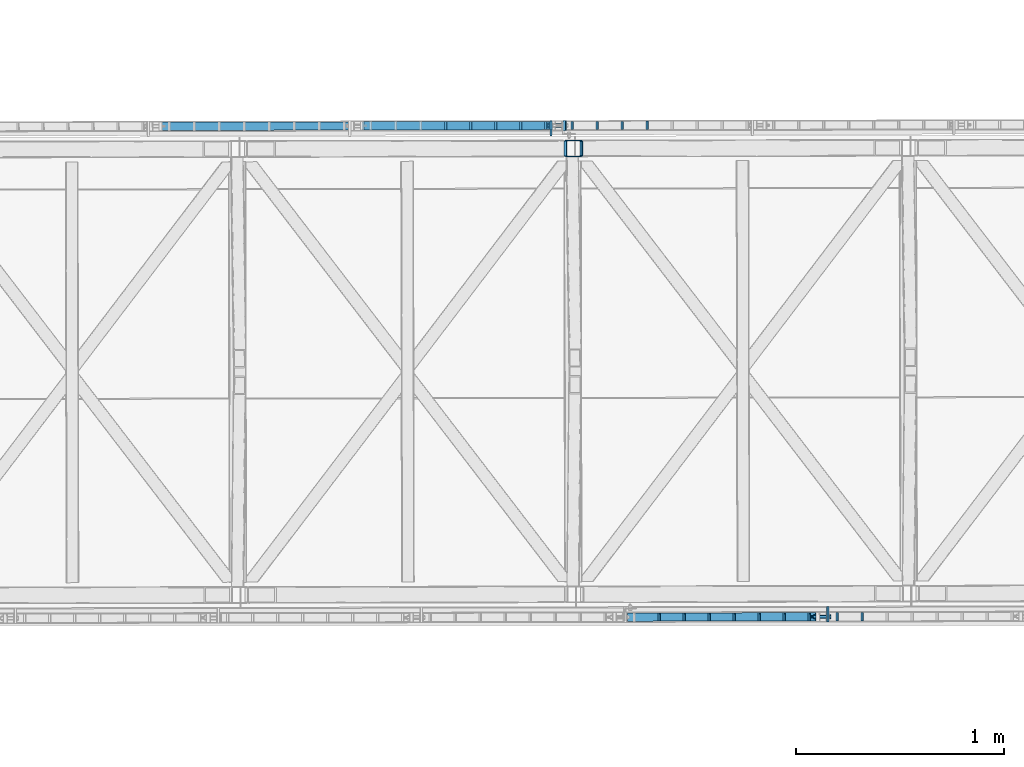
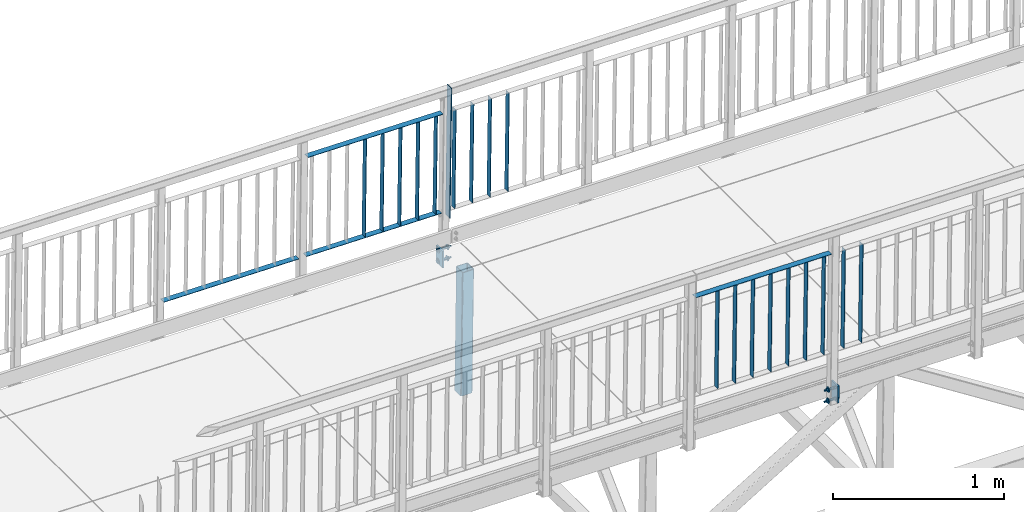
# One storey, part 117 of 169: 26 discrete accessories, 2 mechanical fasteners, 3 elements without a shape of their own.
"""IFC2X3 building model written with IfcOpenShell, lengths in millimetres."""

from ifc_helpers import new_model, si_unit, frame, origin_with_axes, origin_2d_with_axis, place, context, subcontext, project, spatial, polyline, rectangle, hollow_rectangle, circle, outline, extrude, boolean, clip, halfspace, source, transform, mapped, material, type_object, element, aggregate, save


model = new_model("IFC2X3")

# Units and contexts
model_context = context("Model", 3, precision=1e-05, world=origin_with_axes())
body_context = subcontext(model_context, "Body", "Model", "MODEL_VIEW")
ifc_project = project(units=[si_unit("LENGTHUNIT", "METRE", prefix="MILLI"), si_unit("AREAUNIT", "SQUARE_METRE"), si_unit("VOLUMEUNIT", "CUBIC_METRE"), si_unit("MASSUNIT", "GRAM", prefix="KILO"), si_unit("TIMEUNIT", "SECOND"), si_unit("PLANEANGLEUNIT", "RADIAN"), si_unit("SOLIDANGLEUNIT", "STERADIAN"), si_unit("THERMODYNAMICTEMPERATUREUNIT", "DEGREE_CELSIUS"), si_unit("LUMINOUSINTENSITYUNIT", "LUMEN")], contexts=[model_context])

# Site, building, storey
site_placement = place(None, origin_with_axes())
site = spatial("IfcSite", under=ifc_project, at=site_placement, Name="Undefined", CompositionType="ELEMENT")
building_placement = place(site_placement, origin_with_axes())
building = spatial("IfcBuilding", under=site, at=building_placement, Name="Undefined", CompositionType="ELEMENT")
storey_placement = place(building_placement, origin_with_axes())
storey = spatial("IfcBuildingStorey", under=building, at=storey_placement, Name="Undefined", CompositionType="ELEMENT", Elevation=0.0)

# Assembly, discrete accessories
assembly_1_placement = place(storey_placement, origin_with_axes())
assembly_1 = element("IfcElementAssembly", 1, at=assembly_1_placement, inside=storey, Name="Steel Assembly", AssemblyPlace="NOTDEFINED", PredefinedType="RIGID_FRAME")
ifc_material_1 = material(Name="STEEL/S235")
discrete_accessory_type_1 = type_object("IfcDiscreteAccessoryType", Name="BLACHA")
discrete_accessory_1_placement = place(assembly_1_placement, frame((14054.1267744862, 2331.22683431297, 13775.533311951), z_axis=(0.9999174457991, 0.00186469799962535, -0.0127131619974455), x_axis=(-0.0018648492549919, 0.999998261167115, -4.2996762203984e-08)))
discrete_accessory_1 = element("IfcDiscreteAccessory", 2, at=discrete_accessory_1_placement, type_object=discrete_accessory_type_1, material=ifc_material_1, Name="BLACHA", ObjectType="BL10*120", context=body_context, shape_type="SweptSolid", body=[
    extrude(outline(polyline([(-5.35749222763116e-11, -59.9999999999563), (5.3567816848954e-11, 59.9999999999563), (75.0000002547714, 59.9999999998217), (75.0000002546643, -60.0000000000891), (-5.35749222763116e-11, -59.9999999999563)])), frame((-1.81898926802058e-12, -1.18000176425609e-16, -5.00000000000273), z_axis=(0.0, 0.0, 1.0), x_axis=(1.0, 0.0, 0.0)), (0.0, 0.0, 1.0), 10.0),
])
discrete_accessory_2_placement = place(assembly_1_placement, frame((15382.0733835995, 73.699330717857, 13758.7031997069), z_axis=(-0.999917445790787, -0.00186469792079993, 0.0127131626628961), x_axis=(0.00186484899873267, -0.999998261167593, 4.28757666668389e-08)))
discrete_accessory_2 = element("IfcDiscreteAccessory", 3, at=discrete_accessory_2_placement, type_object=discrete_accessory_type_1, material=ifc_material_1, Name="BLACHA", ObjectType="BL10*120", context=body_context, shape_type="SweptSolid", body=[
    extrude(outline(polyline([(75.0000002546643, -60.0000000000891), (-5.35749222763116e-11, -59.9999999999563), (5.3567816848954e-11, 59.9999999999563), (75.0000002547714, 59.9999999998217), (75.0000002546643, -60.0000000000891)])), frame((-1.81898926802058e-12, -1.18000176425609e-16, -5.00000000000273), z_axis=(0.0, 0.0, 1.0), x_axis=(1.0, 0.0, 0.0)), (0.0, 0.0, 1.0), 10.0),
])

# Assembly, discrete accessory
assembly_2_placement = place(storey_placement, origin_with_axes())
assembly_2 = element("IfcElementAssembly", 4, at=assembly_2_placement, inside=storey, Name="Steel Assembly", AssemblyPlace="NOTDEFINED", PredefinedType="RIGID_FRAME")
discrete_accessory_3_placement = place(assembly_2_placement, frame((14114.9655488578, 2406.34043426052, 14033.7789463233), z_axis=(-0.999917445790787, -0.00186469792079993, 0.0127131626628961), x_axis=(0.00186484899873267, -0.999998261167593, 4.28757666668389e-08)))
discrete_accessory_3 = element("IfcDiscreteAccessory", 5, at=discrete_accessory_3_placement, type_object=discrete_accessory_type_1, material=ifc_material_1, Name="BLACHA", ObjectType="BL5*50", context=body_context, shape_type="SweptSolid", body=[
    extrude(outline(polyline([(0.0, 0.0), (50.0000000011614, 3.27418092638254e-11), (50.0000000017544, 926.000000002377), (3.10365066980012e-08, 926.000000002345), (0.0, 0.0)])), frame((6.80888809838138e-19, -2.87858853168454e-21, -2.49999999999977), z_axis=(0.0, 0.0, 1.0), x_axis=(1.0, 0.0, 0.0)), (0.0, 0.0, 1.0), 5.0),
])

# Discrete accessory
ifc_material_2 = material(Name="STEEL/S355")
discrete_accessory_type_2 = type_object("IfcDiscreteAccessoryType", Name="BEAM")
discrete_accessory_4_placement = place(assembly_1_placement, frame((14155.4606473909, 2271.41576976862, 12774.1654243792), z_axis=(-0.999917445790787, -0.00186469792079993, 0.0127131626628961), x_axis=(0.012713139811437, 2.3750999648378e-05, 0.999919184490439)))
discrete_accessory_4 = element("IfcDiscreteAccessory", 6, at=discrete_accessory_4_placement, type_object=discrete_accessory_type_2, material=ifc_material_2, Name="BEAM", ObjectType="K80/4", context=body_context, shape_type="Clipping", body=[
    clip(clip(extrude(hollow_rectangle(XDim=80.0, YDim=80.0, WallThickness=4.0, InnerFilletRadius=4.0, OuterFilletRadius=8.0, at=origin_2d_with_axis()), frame((940.000112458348, 4.54747487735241e-13, 0.0), z_axis=(-1.0, -3.46944695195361e-18, -1.38777878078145e-17), x_axis=(1.73472347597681e-18, -1.0, 0.0)), (0.0, 0.0, 1.0), 880.0), halfspace(frame((940.000112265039, -6.72889655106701e-09, 999.999999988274), z_axis=(-1.0, -3.46944695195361e-18, -1.38777878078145e-17), x_axis=(1.73472347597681e-18, -1.0, 0.0)), True)), halfspace(frame((60.0001122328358, 8.14088707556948e-09, 1000.00000001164), z_axis=(1.0, 0.0, 0.0), x_axis=(0.0, 1.0, 0.0)), True)),
])

aggregate(assembly_1, [discrete_accessory_1, discrete_accessory_2, discrete_accessory_4])

# Assembly, discrete accessories
assembly_3_placement = place(storey_placement, origin_with_axes())
assembly_3 = element("IfcElementAssembly", 7, at=assembly_3_placement, inside=storey, Name="Steel Assembly", AssemblyPlace="NOTDEFINED", PredefinedType="RIGID_FRAME")
discrete_accessory_type_3 = type_object("IfcDiscreteAccessoryType", Name="PORĘCZ")
discrete_accessory_5_placement = place(assembly_3_placement, frame((15433.9604357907, 23.7960549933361, 14918.1384379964), z_axis=(-0.0018648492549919, 0.999998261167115, -4.2996762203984e-08), x_axis=(-0.012713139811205, -2.37511238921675e-05, -0.999919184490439)))
discrete_accessory_5 = element("IfcDiscreteAccessory", 8, at=discrete_accessory_5_placement, type_object=discrete_accessory_type_3, material=ifc_material_1, Name="PORĘCZ", ObjectType="BL40*3", context=body_context, shape_type="Clipping", body=[
    clip(clip(extrude(rectangle(XDim=3.0, YDim=40.0, at=origin_2d_with_axis()), frame((848.500000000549, 1.47191286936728e-15, -8.89750592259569e-16), z_axis=(-1.0, -3.46944695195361e-18, -1.38777878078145e-17), x_axis=(1.73472347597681e-18, -1.0, 0.0)), (0.0, 0.0, 1.0), 702.0), halfspace(frame((848.499999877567, 4.522007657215e-09, 1000.00000000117), z_axis=(-1.0, -3.46944695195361e-18, -1.38777878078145e-17), x_axis=(1.73472347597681e-18, -1.0, 0.0)), True)), halfspace(frame((146.499999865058, 4.97311702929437e-09, 1000.00000000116), z_axis=(1.0, 0.0, 0.0), x_axis=(0.0, 1.0, 0.0)), True)),
])
discrete_accessory_6_placement = place(assembly_3_placement, frame((15553.950529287, 24.0198187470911, 14916.6128585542), z_axis=(-0.0018648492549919, 0.999998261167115, -4.2996762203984e-08), x_axis=(-0.012713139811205, -2.37511238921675e-05, -0.999919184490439)))
discrete_accessory_6 = element("IfcDiscreteAccessory", 9, at=discrete_accessory_6_placement, type_object=discrete_accessory_type_3, material=ifc_material_1, Name="PORĘCZ", ObjectType="BL40*3", context=body_context, shape_type="Clipping", body=[
    clip(clip(extrude(rectangle(XDim=3.0, YDim=40.0, at=origin_2d_with_axis()), frame((848.500000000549, 1.47191286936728e-15, -8.89750592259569e-16), z_axis=(-1.0, -3.46944695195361e-18, -1.38777878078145e-17), x_axis=(1.73472347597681e-18, -1.0, 0.0)), (0.0, 0.0, 1.0), 702.0), halfspace(frame((848.499999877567, 4.522007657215e-09, 1000.00000000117), z_axis=(-1.0, -3.46944695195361e-18, -1.38777878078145e-17), x_axis=(1.73472347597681e-18, -1.0, 0.0)), True)), halfspace(frame((146.499999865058, 4.97311702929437e-09, 1000.00000000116), z_axis=(1.0, 0.0, 0.0), x_axis=(0.0, 1.0, 0.0)), True)),
])
discrete_accessory_7_placement = place(assembly_3_placement, frame((15415.0688120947, 23.7608186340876, 14773.3669108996), z_axis=(-0.012713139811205, -2.37511238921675e-05, -0.999919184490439), x_axis=(-0.999917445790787, -0.00186469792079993, 0.0127131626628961)))
discrete_accessory_7 = element("IfcDiscreteAccessory", 10, at=discrete_accessory_7_placement, type_object=discrete_accessory_type_3, material=ifc_material_1, Name="PORĘCZ", ObjectType="BL40*3", context=body_context, shape_type="CSG", body=[
    boolean("DIFFERENCE", boolean("DIFFERENCE", boolean("DIFFERENCE", extrude(outline(polyline([(995.000000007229, -19.9999999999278), (75.0000000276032, -19.9999999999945), (75.0000000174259, 20.0000000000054), (995.000000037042, 20.0000000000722), (995.000000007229, -19.9999999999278)])), frame((1.81898940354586e-12, -1.77635442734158e-15, -1.50000000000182), z_axis=(0.0, 0.0, 1.0), x_axis=(1.0, 0.0, 0.0)), (0.0, 0.0, 1.0), 3.0), extrude(rectangle(XDim=51.0, YDim=51.0, at=origin_2d_with_axis()), frame((-5.94487782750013e-08, -4.65977194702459e-09, -139.999999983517), z_axis=(0.0, 0.0, 1.0), x_axis=(1.0, 0.0, 0.0)), (0.0, 0.0, 1.0), 280.0)), halfspace(frame((74.999999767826, 1000.00000000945, -5.07134245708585e-09), z_axis=(1.0, 0.0, 0.0), x_axis=(-2.54700353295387e-10, 0.0, -1.0)), True)), halfspace(frame((995.000000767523, 1000.00000000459, 2.61934474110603e-10), z_axis=(-1.0, -3.46944695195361e-18, -1.38777878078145e-17), x_axis=(0.0, 0.0, 1.0)), True)),
])
discrete_accessory_8_placement = place(assembly_3_placement, frame((15299.3722954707, 23.5450680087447, 14919.8496200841), z_axis=(-0.0018648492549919, 0.999998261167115, -4.2996762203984e-08), x_axis=(-0.012713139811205, -2.37511238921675e-05, -0.999919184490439)))
discrete_accessory_8 = element("IfcDiscreteAccessory", 11, at=discrete_accessory_8_placement, type_object=discrete_accessory_type_3, material=ifc_material_1, Name="PORĘCZ", ObjectType="BL40*3", context=body_context, shape_type="Clipping", body=[
    clip(clip(extrude(rectangle(XDim=3.0, YDim=40.0, at=origin_2d_with_axis()), frame((848.500000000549, 1.47191286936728e-15, -8.89750592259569e-16), z_axis=(-1.0, -3.46944695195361e-18, -1.38777878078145e-17), x_axis=(1.73472347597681e-18, -1.0, 0.0)), (0.0, 0.0, 1.0), 702.0), halfspace(frame((848.499999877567, 4.522007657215e-09, 1000.00000000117), z_axis=(-1.0, -3.46944695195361e-18, -1.38777878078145e-17), x_axis=(1.73472347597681e-18, -1.0, 0.0)), True)), halfspace(frame((146.499999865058, 4.97311702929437e-09, 1000.00000000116), z_axis=(1.0, 0.0, 0.0), x_axis=(0.0, 1.0, 0.0)), True)),
])
discrete_accessory_9_placement = place(assembly_3_placement, frame((15179.3822019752, 23.3213042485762, 14921.375199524), z_axis=(-0.0018648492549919, 0.999998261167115, -4.2996762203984e-08), x_axis=(-0.012713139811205, -2.37511238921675e-05, -0.999919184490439)))
discrete_accessory_9 = element("IfcDiscreteAccessory", 12, at=discrete_accessory_9_placement, type_object=discrete_accessory_type_3, material=ifc_material_1, Name="PORĘCZ", ObjectType="BL40*3", context=body_context, shape_type="Clipping", body=[
    clip(clip(extrude(rectangle(XDim=3.0, YDim=40.0, at=origin_2d_with_axis()), frame((848.500000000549, 1.47191286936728e-15, -8.89750592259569e-16), z_axis=(-1.0, -3.46944695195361e-18, -1.38777878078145e-17), x_axis=(1.73472347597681e-18, -1.0, 0.0)), (0.0, 0.0, 1.0), 702.0), halfspace(frame((848.499999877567, 4.522007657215e-09, 1000.00000000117), z_axis=(-1.0, -3.46944695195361e-18, -1.38777878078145e-17), x_axis=(1.73472347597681e-18, -1.0, 0.0)), True)), halfspace(frame((146.499999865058, 4.97311702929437e-09, 1000.00000000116), z_axis=(1.0, 0.0, 0.0), x_axis=(0.0, 1.0, 0.0)), True)),
])
discrete_accessory_10_placement = place(assembly_3_placement, frame((15059.3921084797, 23.0975404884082, 14922.9007789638), z_axis=(-0.0018648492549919, 0.999998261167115, -4.2996762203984e-08), x_axis=(-0.012713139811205, -2.37511238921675e-05, -0.999919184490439)))
discrete_accessory_10 = element("IfcDiscreteAccessory", 13, at=discrete_accessory_10_placement, type_object=discrete_accessory_type_3, material=ifc_material_1, Name="PORĘCZ", ObjectType="BL40*3", context=body_context, shape_type="Clipping", body=[
    clip(clip(extrude(rectangle(XDim=3.0, YDim=40.0, at=origin_2d_with_axis()), frame((848.500000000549, 1.47191286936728e-15, -8.89750592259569e-16), z_axis=(-1.0, -3.46944695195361e-18, -1.38777878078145e-17), x_axis=(1.73472347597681e-18, -1.0, 0.0)), (0.0, 0.0, 1.0), 702.0), halfspace(frame((848.499999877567, 4.522007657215e-09, 1000.00000000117), z_axis=(-1.0, -3.46944695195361e-18, -1.38777878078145e-17), x_axis=(1.73472347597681e-18, -1.0, 0.0)), True)), halfspace(frame((146.499999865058, 4.97311702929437e-09, 1000.00000000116), z_axis=(1.0, 0.0, 0.0), x_axis=(0.0, 1.0, 0.0)), True)),
])
discrete_accessory_11_placement = place(assembly_3_placement, frame((14939.4020149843, 22.87377672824, 14924.4263584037), z_axis=(-0.0018648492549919, 0.999998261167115, -4.2996762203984e-08), x_axis=(-0.012713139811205, -2.37511238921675e-05, -0.999919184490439)))
discrete_accessory_11 = element("IfcDiscreteAccessory", 14, at=discrete_accessory_11_placement, type_object=discrete_accessory_type_3, material=ifc_material_1, Name="PORĘCZ", ObjectType="BL40*3", context=body_context, shape_type="Clipping", body=[
    clip(clip(extrude(rectangle(XDim=3.0, YDim=40.0, at=origin_2d_with_axis()), frame((848.500000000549, 1.47191286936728e-15, -8.89750592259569e-16), z_axis=(-1.0, -3.46944695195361e-18, -1.38777878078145e-17), x_axis=(1.73472347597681e-18, -1.0, 0.0)), (0.0, 0.0, 1.0), 702.0), halfspace(frame((848.499999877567, 4.522007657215e-09, 1000.00000000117), z_axis=(-1.0, -3.46944695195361e-18, -1.38777878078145e-17), x_axis=(1.73472347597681e-18, -1.0, 0.0)), True)), halfspace(frame((146.499999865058, 4.97311702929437e-09, 1000.00000000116), z_axis=(1.0, 0.0, 0.0), x_axis=(0.0, 1.0, 0.0)), True)),
])
discrete_accessory_12_placement = place(assembly_3_placement, frame((14819.4119214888, 22.6500129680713, 14925.9519378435), z_axis=(-0.0018648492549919, 0.999998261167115, -4.2996762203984e-08), x_axis=(-0.012713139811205, -2.37511238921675e-05, -0.999919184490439)))
discrete_accessory_12 = element("IfcDiscreteAccessory", 15, at=discrete_accessory_12_placement, type_object=discrete_accessory_type_3, material=ifc_material_1, Name="PORĘCZ", ObjectType="BL40*3", context=body_context, shape_type="Clipping", body=[
    clip(clip(extrude(rectangle(XDim=3.0, YDim=40.0, at=origin_2d_with_axis()), frame((848.500000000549, 1.47191286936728e-15, -8.89750592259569e-16), z_axis=(-1.0, -3.46944695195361e-18, -1.38777878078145e-17), x_axis=(1.73472347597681e-18, -1.0, 0.0)), (0.0, 0.0, 1.0), 702.0), halfspace(frame((848.499999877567, 4.522007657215e-09, 1000.00000000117), z_axis=(-1.0, -3.46944695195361e-18, -1.38777878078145e-17), x_axis=(1.73472347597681e-18, -1.0, 0.0)), True)), halfspace(frame((146.499999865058, 4.97311702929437e-09, 1000.00000000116), z_axis=(1.0, 0.0, 0.0), x_axis=(0.0, 1.0, 0.0)), True)),
])
discrete_accessory_13_placement = place(assembly_3_placement, frame((14699.4218279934, 22.4262492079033, 14927.4775172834), z_axis=(-0.0018648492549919, 0.999998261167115, -4.2996762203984e-08), x_axis=(-0.012713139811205, -2.37511238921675e-05, -0.999919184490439)))
discrete_accessory_13 = element("IfcDiscreteAccessory", 16, at=discrete_accessory_13_placement, type_object=discrete_accessory_type_3, material=ifc_material_1, Name="PORĘCZ", ObjectType="BL40*3", context=body_context, shape_type="Clipping", body=[
    clip(clip(extrude(rectangle(XDim=3.0, YDim=40.0, at=origin_2d_with_axis()), frame((848.500000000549, 1.47191286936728e-15, -8.89750592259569e-16), z_axis=(-1.0, -3.46944695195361e-18, -1.38777878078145e-17), x_axis=(1.73472347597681e-18, -1.0, 0.0)), (0.0, 0.0, 1.0), 702.0), halfspace(frame((848.499999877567, 4.522007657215e-09, 1000.00000000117), z_axis=(-1.0, -3.46944695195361e-18, -1.38777878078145e-17), x_axis=(1.73472347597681e-18, -1.0, 0.0)), True)), halfspace(frame((146.499999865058, 4.97311702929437e-09, 1000.00000000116), z_axis=(1.0, 0.0, 0.0), x_axis=(0.0, 1.0, 0.0)), True)),
])
discrete_accessory_14_placement = place(assembly_3_placement, frame((14579.4317344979, 22.2024854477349, 14929.0030967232), z_axis=(-0.0018648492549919, 0.999998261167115, -4.2996762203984e-08), x_axis=(-0.012713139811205, -2.37511238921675e-05, -0.999919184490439)))
discrete_accessory_14 = element("IfcDiscreteAccessory", 17, at=discrete_accessory_14_placement, type_object=discrete_accessory_type_3, material=ifc_material_1, Name="PORĘCZ", ObjectType="BL40*3", context=body_context, shape_type="Clipping", body=[
    clip(clip(extrude(rectangle(XDim=3.0, YDim=40.0, at=origin_2d_with_axis()), frame((848.500000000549, 1.47191286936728e-15, -8.89750592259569e-16), z_axis=(-1.0, -3.46944695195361e-18, -1.38777878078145e-17), x_axis=(1.73472347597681e-18, -1.0, 0.0)), (0.0, 0.0, 1.0), 702.0), halfspace(frame((848.499999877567, 4.522007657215e-09, 1000.00000000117), z_axis=(-1.0, -3.46944695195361e-18, -1.38777878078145e-17), x_axis=(1.73472347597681e-18, -1.0, 0.0)), True)), halfspace(frame((146.499999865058, 4.97311702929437e-09, 1000.00000000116), z_axis=(1.0, 0.0, 0.0), x_axis=(0.0, 1.0, 0.0)), True)),
])

# Discrete accessory
discrete_accessory_15_placement = place(assembly_2_placement, frame((13130.3202386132, 2379.50420493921, 14802.3596300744), z_axis=(-0.012713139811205, -2.37511238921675e-05, -0.999919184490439), x_axis=(0.9999174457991, 0.00186469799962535, -0.0127131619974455)))
discrete_accessory_15 = element("IfcDiscreteAccessory", 18, at=discrete_accessory_15_placement, type_object=discrete_accessory_type_3, material=ifc_material_1, Name="PORĘCZ", ObjectType="BL40*3", context=body_context, shape_type="CSG", body=[
    boolean("DIFFERENCE", boolean("DIFFERENCE", extrude(outline(polyline([(25.4999999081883, 20.0000000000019), (941.194458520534, 20.0000000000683), (941.194458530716, -19.9999999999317), (25.499999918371, -19.9999999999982), (25.4999999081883, 20.0000000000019)])), frame((1.81898940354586e-12, -1.77635442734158e-15, -1.50000000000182), z_axis=(0.0, 0.0, 1.0), x_axis=(1.0, 0.0, 0.0)), (0.0, 0.0, 1.0), 3.0), extrude(rectangle(XDim=51.0, YDim=51.0, at=origin_2d_with_axis()), frame((-5.94487782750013e-08, -4.65977194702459e-09, -139.999999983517), z_axis=(0.0, 0.0, 1.0), x_axis=(1.0, 0.0, 0.0)), (0.0, 0.0, 1.0), 280.0)), extrude(rectangle(XDim=51.0, YDim=51.0, at=origin_2d_with_axis()), frame((966.694458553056, -6.96000839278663e-09, -139.999999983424), z_axis=(0.0, 0.0, 1.0), x_axis=(1.0, 0.0, 0.0)), (0.0, 0.0, 1.0), 280.0)),
])

discrete_accessory_16_placement = place(assembly_2_placement, frame((13555.4759239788, 2380.29706358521, 14941.9658299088), z_axis=(0.00186484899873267, -0.999998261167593, 4.28757666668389e-08), x_axis=(-0.012713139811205, -2.37511238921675e-05, -0.999919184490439)))
discrete_accessory_16 = element("IfcDiscreteAccessory", 19, at=discrete_accessory_16_placement, type_object=discrete_accessory_type_3, material=ifc_material_1, Name="PORĘCZ", ObjectType="BL40*3", context=body_context, shape_type="Clipping", body=[
    clip(clip(extrude(rectangle(XDim=3.0, YDim=40.0, at=origin_2d_with_axis()), frame((848.500000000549, 1.47191286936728e-15, -8.89750592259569e-16), z_axis=(-1.0, -3.46944695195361e-18, -1.38777878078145e-17), x_axis=(1.73472347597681e-18, -1.0, 0.0)), (0.0, 0.0, 1.0), 702.0), halfspace(frame((848.499999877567, 4.522007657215e-09, 1000.00000000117), z_axis=(-1.0, -3.46944695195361e-18, -1.38777878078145e-17), x_axis=(1.73472347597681e-18, -1.0, 0.0)), True)), halfspace(frame((146.499999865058, 4.97311702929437e-09, 1000.00000000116), z_axis=(1.0, 0.0, 0.0), x_axis=(0.0, 1.0, 0.0)), True)),
])

discrete_accessory_17_placement = place(assembly_2_placement, frame((13675.4660174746, 2380.52082734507, 14940.4402504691), z_axis=(0.00186484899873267, -0.999998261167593, 4.28757666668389e-08), x_axis=(-0.012713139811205, -2.37511238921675e-05, -0.999919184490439)))
discrete_accessory_17 = element("IfcDiscreteAccessory", 20, at=discrete_accessory_17_placement, type_object=discrete_accessory_type_3, material=ifc_material_1, Name="PORĘCZ", ObjectType="BL40*3", context=body_context, shape_type="Clipping", body=[
    clip(clip(extrude(rectangle(XDim=3.0, YDim=40.0, at=origin_2d_with_axis()), frame((848.500000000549, 1.47191286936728e-15, -8.89750592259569e-16), z_axis=(-1.0, -3.46944695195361e-18, -1.38777878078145e-17), x_axis=(1.73472347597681e-18, -1.0, 0.0)), (0.0, 0.0, 1.0), 702.0), halfspace(frame((848.499999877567, 4.522007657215e-09, 1000.00000000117), z_axis=(-1.0, -3.46944695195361e-18, -1.38777878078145e-17), x_axis=(1.73472347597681e-18, -1.0, 0.0)), True)), halfspace(frame((146.499999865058, 4.97311702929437e-09, 1000.00000000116), z_axis=(1.0, 0.0, 0.0), x_axis=(0.0, 1.0, 0.0)), True)),
])

discrete_accessory_18_placement = place(assembly_2_placement, frame((13795.4561109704, 2380.74459110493, 14938.9146710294), z_axis=(0.00186484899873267, -0.999998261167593, 4.28757666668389e-08), x_axis=(-0.012713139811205, -2.37511238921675e-05, -0.999919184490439)))
discrete_accessory_18 = element("IfcDiscreteAccessory", 21, at=discrete_accessory_18_placement, type_object=discrete_accessory_type_3, material=ifc_material_1, Name="PORĘCZ", ObjectType="BL40*3", context=body_context, shape_type="Clipping", body=[
    clip(clip(extrude(rectangle(XDim=3.0, YDim=40.0, at=origin_2d_with_axis()), frame((848.500000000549, 1.47191286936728e-15, -8.89750592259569e-16), z_axis=(-1.0, -3.46944695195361e-18, -1.38777878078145e-17), x_axis=(1.73472347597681e-18, -1.0, 0.0)), (0.0, 0.0, 1.0), 702.0), halfspace(frame((848.499999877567, 4.522007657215e-09, 1000.00000000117), z_axis=(-1.0, -3.46944695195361e-18, -1.38777878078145e-17), x_axis=(1.73472347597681e-18, -1.0, 0.0)), True)), halfspace(frame((146.499999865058, 4.97311702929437e-09, 1000.00000000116), z_axis=(1.0, 0.0, 0.0), x_axis=(0.0, 1.0, 0.0)), True)),
])

discrete_accessory_19_placement = place(assembly_2_placement, frame((13915.4462044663, 2380.9683548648, 14937.3890915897), z_axis=(0.00186484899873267, -0.999998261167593, 4.28757666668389e-08), x_axis=(-0.012713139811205, -2.37511238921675e-05, -0.999919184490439)))
discrete_accessory_19 = element("IfcDiscreteAccessory", 22, at=discrete_accessory_19_placement, type_object=discrete_accessory_type_3, material=ifc_material_1, Name="PORĘCZ", ObjectType="BL40*3", context=body_context, shape_type="Clipping", body=[
    clip(clip(extrude(rectangle(XDim=3.0, YDim=40.0, at=origin_2d_with_axis()), frame((848.500000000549, 1.47191286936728e-15, -8.89750592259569e-16), z_axis=(-1.0, -3.46944695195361e-18, -1.38777878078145e-17), x_axis=(1.73472347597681e-18, -1.0, 0.0)), (0.0, 0.0, 1.0), 702.0), halfspace(frame((848.499999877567, 4.522007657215e-09, 1000.00000000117), z_axis=(-1.0, -3.46944695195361e-18, -1.38777878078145e-17), x_axis=(1.73472347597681e-18, -1.0, 0.0)), True)), halfspace(frame((146.499999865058, 4.97311702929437e-09, 1000.00000000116), z_axis=(1.0, 0.0, 0.0), x_axis=(0.0, 1.0, 0.0)), True)),
])

discrete_accessory_20_placement = place(assembly_2_placement, frame((14035.4362979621, 2381.19211862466, 14935.86351215), z_axis=(0.00186484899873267, -0.999998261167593, 4.28757666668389e-08), x_axis=(-0.012713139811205, -2.37511238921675e-05, -0.999919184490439)))
discrete_accessory_20 = element("IfcDiscreteAccessory", 23, at=discrete_accessory_20_placement, type_object=discrete_accessory_type_3, material=ifc_material_1, Name="PORĘCZ", ObjectType="BL40*3", context=body_context, shape_type="Clipping", body=[
    clip(clip(extrude(rectangle(XDim=3.0, YDim=40.0, at=origin_2d_with_axis()), frame((848.500000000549, 1.47191286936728e-15, -8.89750592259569e-16), z_axis=(-1.0, -3.46944695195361e-18, -1.38777878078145e-17), x_axis=(1.73472347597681e-18, -1.0, 0.0)), (0.0, 0.0, 1.0), 702.0), halfspace(frame((848.499999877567, 4.522007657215e-09, 1000.00000000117), z_axis=(-1.0, -3.46944695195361e-18, -1.38777878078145e-17), x_axis=(1.73472347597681e-18, -1.0, 0.0)), True)), halfspace(frame((146.499999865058, 4.97311702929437e-09, 1000.00000000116), z_axis=(1.0, 0.0, 0.0), x_axis=(0.0, 1.0, 0.0)), True)),
])

discrete_accessory_21_placement = place(assembly_2_placement, frame((14162.1202974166, 2381.4283655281, 14934.2528249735), z_axis=(0.00186484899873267, -0.999998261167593, 4.28757666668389e-08), x_axis=(-0.012713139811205, -2.37511238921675e-05, -0.999919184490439)))
discrete_accessory_21 = element("IfcDiscreteAccessory", 24, at=discrete_accessory_21_placement, type_object=discrete_accessory_type_3, material=ifc_material_1, Name="PORĘCZ", ObjectType="BL40*3", context=body_context, shape_type="Clipping", body=[
    clip(clip(extrude(rectangle(XDim=3.0, YDim=40.0, at=origin_2d_with_axis()), frame((848.500000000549, 1.47191286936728e-15, -8.89750592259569e-16), z_axis=(-1.0, -3.46944695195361e-18, -1.38777878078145e-17), x_axis=(1.73472347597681e-18, -1.0, 0.0)), (0.0, 0.0, 1.0), 702.0), halfspace(frame((848.499999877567, 4.522007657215e-09, 1000.00000000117), z_axis=(-1.0, -3.46944695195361e-18, -1.38777878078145e-17), x_axis=(1.73472347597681e-18, -1.0, 0.0)), True)), halfspace(frame((146.499999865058, 4.97311702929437e-09, 1000.00000000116), z_axis=(1.0, 0.0, 0.0), x_axis=(0.0, 1.0, 0.0)), True)),
])

discrete_accessory_22_placement = place(assembly_2_placement, frame((14282.1103909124, 2381.65212928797, 14932.7272455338), z_axis=(0.00186484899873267, -0.999998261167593, 4.28757666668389e-08), x_axis=(-0.012713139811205, -2.37511238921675e-05, -0.999919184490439)))
discrete_accessory_22 = element("IfcDiscreteAccessory", 25, at=discrete_accessory_22_placement, type_object=discrete_accessory_type_3, material=ifc_material_1, Name="PORĘCZ", ObjectType="BL40*3", context=body_context, shape_type="Clipping", body=[
    clip(clip(extrude(rectangle(XDim=3.0, YDim=40.0, at=origin_2d_with_axis()), frame((848.500000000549, 1.47191286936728e-15, -8.89750592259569e-16), z_axis=(-1.0, -3.46944695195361e-18, -1.38777878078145e-17), x_axis=(1.73472347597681e-18, -1.0, 0.0)), (0.0, 0.0, 1.0), 702.0), halfspace(frame((848.499999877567, 4.522007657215e-09, 1000.00000000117), z_axis=(-1.0, -3.46944695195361e-18, -1.38777878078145e-17), x_axis=(1.73472347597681e-18, -1.0, 0.0)), True)), halfspace(frame((146.499999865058, 4.97311702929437e-09, 1000.00000000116), z_axis=(1.0, 0.0, 0.0), x_axis=(0.0, 1.0, 0.0)), True)),
])

discrete_accessory_23_placement = place(assembly_2_placement, frame((14402.1004844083, 2381.87589304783, 14931.2016660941), z_axis=(0.00186484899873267, -0.999998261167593, 4.28757666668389e-08), x_axis=(-0.012713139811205, -2.37511238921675e-05, -0.999919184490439)))
discrete_accessory_23 = element("IfcDiscreteAccessory", 26, at=discrete_accessory_23_placement, type_object=discrete_accessory_type_3, material=ifc_material_1, Name="PORĘCZ", ObjectType="BL40*3", context=body_context, shape_type="Clipping", body=[
    clip(clip(extrude(rectangle(XDim=3.0, YDim=40.0, at=origin_2d_with_axis()), frame((848.500000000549, 1.47191286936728e-15, -8.89750592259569e-16), z_axis=(-1.0, -3.46944695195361e-18, -1.38777878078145e-17), x_axis=(1.73472347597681e-18, -1.0, 0.0)), (0.0, 0.0, 1.0), 702.0), halfspace(frame((848.499999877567, 4.522007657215e-09, 1000.00000000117), z_axis=(-1.0, -3.46944695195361e-18, -1.38777878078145e-17), x_axis=(1.73472347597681e-18, -1.0, 0.0)), True)), halfspace(frame((146.499999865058, 4.97311702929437e-09, 1000.00000000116), z_axis=(1.0, 0.0, 0.0), x_axis=(0.0, 1.0, 0.0)), True)),
])

discrete_accessory_24_placement = place(assembly_2_placement, frame((14522.0905779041, 2382.09965680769, 14929.6760866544), z_axis=(0.00186484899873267, -0.999998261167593, 4.28757666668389e-08), x_axis=(-0.012713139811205, -2.37511238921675e-05, -0.999919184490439)))
discrete_accessory_24 = element("IfcDiscreteAccessory", 27, at=discrete_accessory_24_placement, type_object=discrete_accessory_type_3, material=ifc_material_1, Name="PORĘCZ", ObjectType="BL40*3", context=body_context, shape_type="Clipping", body=[
    clip(clip(extrude(rectangle(XDim=3.0, YDim=40.0, at=origin_2d_with_axis()), frame((848.500000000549, 1.47191286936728e-15, -8.89750592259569e-16), z_axis=(-1.0, -3.46944695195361e-18, -1.38777878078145e-17), x_axis=(1.73472347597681e-18, -1.0, 0.0)), (0.0, 0.0, 1.0), 702.0), halfspace(frame((848.499999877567, 4.522007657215e-09, 1000.00000000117), z_axis=(-1.0, -3.46944695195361e-18, -1.38777878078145e-17), x_axis=(1.73472347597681e-18, -1.0, 0.0)), True)), halfspace(frame((146.499999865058, 4.97311702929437e-09, 1000.00000000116), z_axis=(1.0, 0.0, 0.0), x_axis=(0.0, 1.0, 0.0)), True)),
])

discrete_accessory_25_placement = place(assembly_2_placement, frame((12154.7428211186, 2377.68486717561, 14109.7063482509), z_axis=(-0.012713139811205, -2.37511238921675e-05, -0.999919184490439), x_axis=(0.9999174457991, 0.00186469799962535, -0.0127131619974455)))
discrete_accessory_25 = element("IfcDiscreteAccessory", 28, at=discrete_accessory_25_placement, type_object=discrete_accessory_type_3, material=ifc_material_1, Name="PORĘCZ", ObjectType="BL40*3", context=body_context, shape_type="CSG", body=[
    boolean("DIFFERENCE", boolean("DIFFERENCE", extrude(outline(polyline([(25.4999999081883, 20.0000000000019), (941.194458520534, 20.0000000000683), (941.194458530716, -19.9999999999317), (25.499999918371, -19.9999999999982), (25.4999999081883, 20.0000000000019)])), frame((1.81898940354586e-12, -1.77635442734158e-15, -1.50000000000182), z_axis=(0.0, 0.0, 1.0), x_axis=(1.0, 0.0, 0.0)), (0.0, 0.0, 1.0), 3.0), extrude(rectangle(XDim=51.0, YDim=51.0, at=origin_2d_with_axis()), frame((-5.94487782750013e-08, -4.65977194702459e-09, -139.999999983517), z_axis=(0.0, 0.0, 1.0), x_axis=(1.0, 0.0, 0.0)), (0.0, 0.0, 1.0), 280.0)), extrude(rectangle(XDim=51.0, YDim=51.0, at=origin_2d_with_axis()), frame((966.694458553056, -6.96000839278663e-09, -139.999999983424), z_axis=(0.0, 0.0, 1.0), x_axis=(1.0, 0.0, 0.0)), (0.0, 0.0, 1.0), 280.0)),
])

discrete_accessory_26_placement = place(assembly_2_placement, frame((13121.3574750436, 2379.4874603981, 14097.4166049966), z_axis=(-0.012713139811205, -2.37511238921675e-05, -0.999919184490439), x_axis=(0.9999174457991, 0.00186469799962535, -0.0127131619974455)))
discrete_accessory_26 = element("IfcDiscreteAccessory", 29, at=discrete_accessory_26_placement, type_object=discrete_accessory_type_3, material=ifc_material_1, Name="PORĘCZ", ObjectType="BL40*3", context=body_context, shape_type="CSG", body=[
    boolean("DIFFERENCE", boolean("DIFFERENCE", extrude(outline(polyline([(25.4999999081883, 20.0000000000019), (941.194458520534, 20.0000000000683), (941.194458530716, -19.9999999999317), (25.499999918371, -19.9999999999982), (25.4999999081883, 20.0000000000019)])), frame((1.81898940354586e-12, -1.77635442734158e-15, -1.50000000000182), z_axis=(0.0, 0.0, 1.0), x_axis=(1.0, 0.0, 0.0)), (0.0, 0.0, 1.0), 3.0), extrude(rectangle(XDim=51.0, YDim=51.0, at=origin_2d_with_axis()), frame((-5.94487782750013e-08, -4.65977194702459e-09, -139.999999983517), z_axis=(0.0, 0.0, 1.0), x_axis=(1.0, 0.0, 0.0)), (0.0, 0.0, 1.0), 280.0)), extrude(rectangle(XDim=51.0, YDim=51.0, at=origin_2d_with_axis()), frame((966.694458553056, -6.96000839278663e-09, -139.999999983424), z_axis=(0.0, 0.0, 1.0), x_axis=(1.0, 0.0, 0.0)), (0.0, 0.0, 1.0), 280.0)),
])

# Mechanical fastener
ifc_material_3 = material(Name="Undefined")
discrete_accessory_type_4 = type_object("IfcDiscreteAccessoryType", Name="Bolt assembly")
shared_shape = source(origin_with_axes(), body_context, "Body", "SweptSolid", [
    extrude(circle(Radius=9.0, at=origin_2d_with_axis()), frame((0.0, -4.90000000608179, 0.0), z_axis=(0.0, 1.0, 0.0), x_axis=(1.0, 0.0, 0.0)), (0.0, 0.0, 1.0), 10.0),
    extrude(circle(Radius=9.0, at=origin_2d_with_axis()), frame((0.0, 4.89999999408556, 0.0), z_axis=(0.0, 1.0, 0.0), x_axis=(1.0, 0.0, 0.0)), (0.0, 0.0, 1.0), 50.1),
    extrude(outline(polyline([(10.39230484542, 0.0), (5.19615242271, 9.00000000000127), (-5.19615242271, 9.00000000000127), (-10.39230484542, 0.0), (-5.19615242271, -9.00000000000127), (5.19615242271, -9.00000000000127), (10.39230484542, 0.0)])), frame((0.0, -15.5000000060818, 0.0), z_axis=(0.0, 1.0, 0.0), x_axis=(1.0, 0.0, 0.0)), (0.0, 0.0, 1.0), 7.5),
    extrude(circle(Radius=6.0, at=origin_2d_with_axis()), frame((0.0, -8.00000000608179, 0.0), z_axis=(0.0, 1.0, 0.0), x_axis=(1.0, 0.0, 0.0)), (0.0, 0.0, 1.0), 90.0),
    extrude(circle(Radius=18.5, at=origin_2d_with_axis()), frame((0.0, -8.00000000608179, 0.0), z_axis=(0.0, 1.0, 0.0), x_axis=(1.0, 0.0, 0.0)), (0.0, 0.0, 1.0), 3.0),
    extrude(circle(Radius=18.5, at=origin_2d_with_axis()), frame((0.0, 54.9999999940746, 0.0), z_axis=(0.0, 1.0, 0.0), x_axis=(1.0, 0.0, 0.0)), (0.0, 0.0, 1.0), 3.0),
    extrude(outline(polyline([(10.96965511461, 0.0), (5.484827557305, 9.50000000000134), (-5.484827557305, 9.50000000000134), (-10.96965511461, 0.0), (-5.484827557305, -9.50000000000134), (5.484827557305, -9.50000000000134), (10.96965511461, 0.0)])), frame((0.0, 57.9999999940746, 0.0), z_axis=(0.0, 1.0, 0.0), x_axis=(1.0, 0.0, 0.0)), (0.0, 0.0, 1.0), 10.0),
])
mechanical_fastener_1_placement = place(assembly_2_placement, frame((14054.0398886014, 2381.22676186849, 13776.0332693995), z_axis=(0.012712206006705, 0.000523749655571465, 0.999919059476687), x_axis=(0.00187120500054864, -0.999998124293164, 0.00050000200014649)))
mechanical_fastener_1 = element("IfcMechanicalFastener", 30, at=mechanical_fastener_1_placement, type_object=discrete_accessory_type_4, material=ifc_material_3, Name="Bolt assembly", NominalDiameter=12.0, NominalLength=90.0, context=body_context, shape_type="MappedRepresentation", body=[
    mapped(shared_shape, transform((-1.15463194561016e-14, 5.45696821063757e-11, -39.9999999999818))),
    mapped(shared_shape, transform((8.88178419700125e-15, -5.54791768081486e-11, 39.99999999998))),
])

aggregate(assembly_2, [mechanical_fastener_1, discrete_accessory_3, discrete_accessory_15, discrete_accessory_16, discrete_accessory_17, discrete_accessory_18, discrete_accessory_19, discrete_accessory_20, discrete_accessory_21, discrete_accessory_22, discrete_accessory_23, discrete_accessory_24, discrete_accessory_25, discrete_accessory_26])

mechanical_fastener_2_placement = place(assembly_3_placement, frame((15382.1729826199, 23.6994293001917, 13759.203161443), z_axis=(0.0127140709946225, -0.00047624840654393, 0.999919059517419), x_axis=(-0.00185849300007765, 0.999998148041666, 0.000499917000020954)))
mechanical_fastener_2 = element("IfcMechanicalFastener", 31, at=mechanical_fastener_2_placement, type_object=discrete_accessory_type_4, material=ifc_material_3, Name="Bolt assembly", NominalDiameter=12.0, NominalLength=90.0, context=body_context, shape_type="MappedRepresentation", body=[
    mapped(shared_shape, transform((-1.15463194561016e-14, 5.45696821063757e-11, -39.9999999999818))),
    mapped(shared_shape, transform((8.88178419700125e-15, -5.54791768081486e-11, 39.99999999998))),
])

aggregate(assembly_3, [discrete_accessory_5, discrete_accessory_6, mechanical_fastener_2, discrete_accessory_7, discrete_accessory_8, discrete_accessory_9, discrete_accessory_10, discrete_accessory_11, discrete_accessory_12, discrete_accessory_13, discrete_accessory_14])

save(model, "model.ifc")
